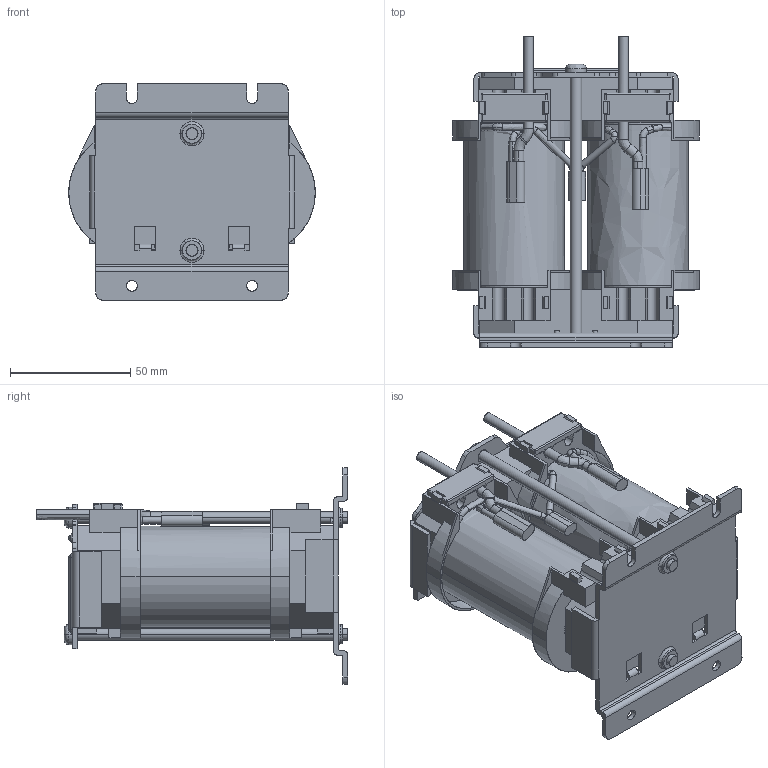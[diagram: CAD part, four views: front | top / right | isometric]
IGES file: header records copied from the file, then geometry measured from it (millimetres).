
Start section: SolidWorks IGES file using analytic representation for surfaces
Global section: file name: \\10.106.230.1\r&d file\05_COMP\02_Mechanical\10_Others\PV_RT 81\网络用3D模型\立式\网络用模型\4KW_P_DCL.IGS; native system: SolidWorks 2009; preprocessor: SolidWorks 2009; author: 钱雅婧,,1; organization: 1; date: 120508.144528; units: millimetre
Bounding box: 102.5 x 129.5 x 90 mm (x, y, z)
Surface area: 115998.1 mm2 (no closed solid volume)
Topology: 0 solids, 0 shells, 739 faces, 6429 edges, 6413 vertices
Faces by surface type: bspline 480, revolution 259
